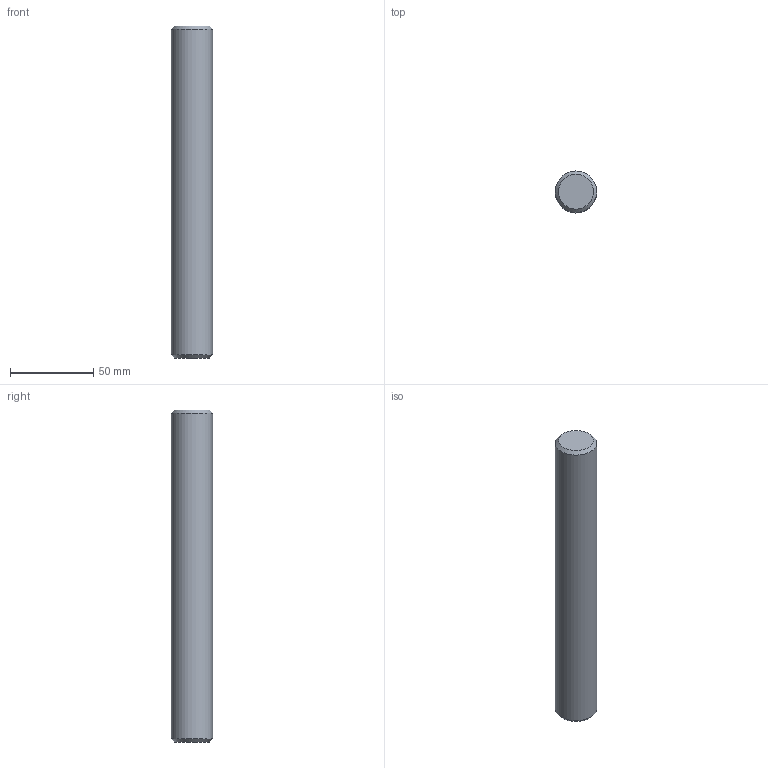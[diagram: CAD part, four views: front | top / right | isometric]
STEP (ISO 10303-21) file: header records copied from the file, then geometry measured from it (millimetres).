
FILE_DESCRIPTION(/* description */ (''),/* implementation_level */ '2;1');
FILE_NAME(/* name */ 'Guidepillar',/* time_stamp */ '2005-04-11T10:05:36+06:00',/* author */ (''),/* organization */ (''),/* preprocessor_version */ 'ST-DEVELOPER v9',/* originating_system */ 'UGS - NX 3.0',/* authorisation */ '');
FILE_SCHEMA (('CONFIG_CONTROL_DESIGN'));
Length unit declared in the file: millimetre
Products named in the file (1): CADC04D5rgrq
Bounding box: 25 x 25 x 200 mm (x, y, z)
Volume: 97877.4 mm3; surface area: 16495.3 mm2
Topology: 1 solids, 1 shells, 5 faces, 7 edges, 4 vertices
Faces by surface type: plane 2, cone 2, cylinder 1
Full cylindrical faces by diameter (mm): 25 x1
Entity records: 180 total; most frequent: DIRECTION 20, CARTESIAN_POINT 14, AXIS2_PLACEMENT_3D 10, EDGE_LOOP 8, ORIENTED_EDGE 8, PERSON_AND_ORGANIZATION 7, ORGANIZATION 7, DATE_AND_TIME 5
